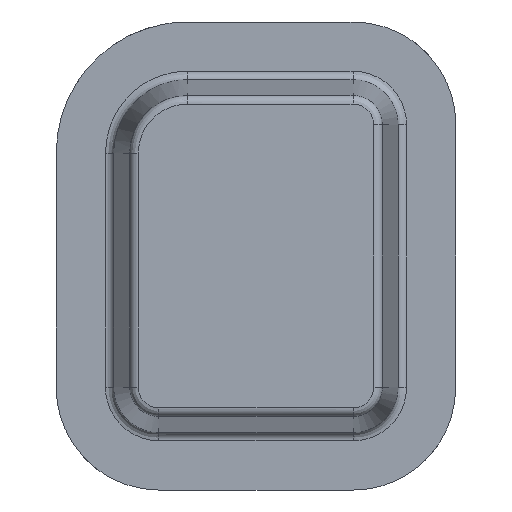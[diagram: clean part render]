
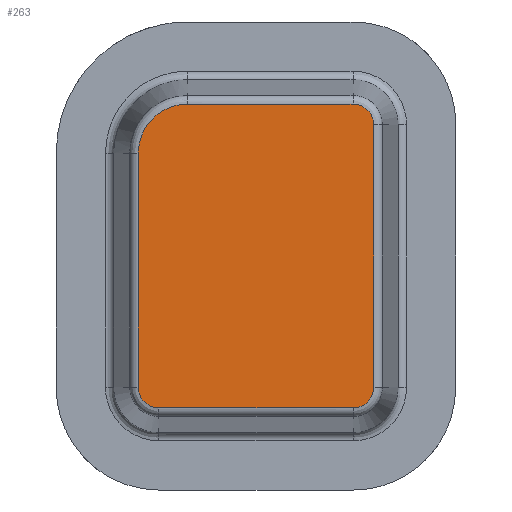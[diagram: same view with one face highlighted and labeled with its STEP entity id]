
A CAD part, front view. The second image highlights one B-rep face of the part: STEP entity #263.
In plain terms, the highlighted planar face has unit normal (0, -1, 0).
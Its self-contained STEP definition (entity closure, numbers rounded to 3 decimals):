
#144=CARTESIAN_POINT('Axis2P3D Location',(45.08,0.,54.92)) ;
#149=CARTESIAN_POINT('Line Origine',(2.749,0.,51.)) ;
#153=CARTESIAN_POINT('Vertex',(2.749,0.,92.)) ;
#155=CARTESIAN_POINT('Vertex',(2.749,0.,10.)) ;
#159=CARTESIAN_POINT('Control Point',(2.749,0.,10.)) ;
#160=CARTESIAN_POINT('Control Point',(2.749,0.,9.039)) ;
#161=CARTESIAN_POINT('Control Point',(2.908,0.,8.077)) ;
#162=CARTESIAN_POINT('Control Point',(3.227,0.,7.152)) ;
#163=CARTESIAN_POINT('Control Point',(4.157,0.,5.443)) ;
#164=CARTESIAN_POINT('Control Point',(5.589,0.,4.124)) ;
#165=CARTESIAN_POINT('Control Point',(6.408,0.,3.59)) ;
#166=CARTESIAN_POINT('Control Point',(7.599,0.,3.072)) ;
#167=CARTESIAN_POINT('Control Point',(8.86,0.,2.828)) ;
#168=CARTESIAN_POINT('Control Point',(9.179,0.,2.785)) ;
#169=CARTESIAN_POINT('Control Point',(9.535,0.,2.756)) ;
#170=CARTESIAN_POINT('Control Point',(9.891,0.,2.75)) ;
#171=CARTESIAN_POINT('Control Point',(9.928,0.,2.749)) ;
#172=CARTESIAN_POINT('Control Point',(9.964,0.,2.749)) ;
#173=CARTESIAN_POINT('Control Point',(10.,0.,2.749)) ;
#174=CARTESIAN_POINT('Vertex',(10.,0.,2.749)) ;
#177=CARTESIAN_POINT('Line Origine',(44.,0.,2.749)) ;
#181=CARTESIAN_POINT('Vertex',(78.,0.,2.749)) ;
#185=CARTESIAN_POINT('Control Point',(78.,0.,2.749)) ;
#186=CARTESIAN_POINT('Control Point',(78.961,0.,2.749)) ;
#187=CARTESIAN_POINT('Control Point',(79.923,0.,2.908)) ;
#188=CARTESIAN_POINT('Control Point',(80.848,0.,3.227)) ;
#189=CARTESIAN_POINT('Control Point',(82.557,0.,4.157)) ;
#190=CARTESIAN_POINT('Control Point',(83.876,0.,5.589)) ;
#191=CARTESIAN_POINT('Control Point',(84.41,0.,6.408)) ;
#192=CARTESIAN_POINT('Control Point',(84.928,0.,7.599)) ;
#193=CARTESIAN_POINT('Control Point',(85.172,0.,8.86)) ;
#194=CARTESIAN_POINT('Control Point',(85.215,0.,9.179)) ;
#195=CARTESIAN_POINT('Control Point',(85.244,0.,9.535)) ;
#196=CARTESIAN_POINT('Control Point',(85.25,0.,9.891)) ;
#197=CARTESIAN_POINT('Control Point',(85.251,0.,9.928)) ;
#198=CARTESIAN_POINT('Control Point',(85.251,0.,9.964)) ;
#199=CARTESIAN_POINT('Control Point',(85.251,0.,10.)) ;
#200=CARTESIAN_POINT('Vertex',(85.251,0.,10.)) ;
#203=CARTESIAN_POINT('Line Origine',(85.251,0.,56.)) ;
#207=CARTESIAN_POINT('Vertex',(85.251,0.,102.)) ;
#211=CARTESIAN_POINT('Control Point',(85.251,0.,102.)) ;
#212=CARTESIAN_POINT('Control Point',(85.251,0.,102.961)) ;
#213=CARTESIAN_POINT('Control Point',(85.092,0.,103.923)) ;
#214=CARTESIAN_POINT('Control Point',(84.773,0.,104.848)) ;
#215=CARTESIAN_POINT('Control Point',(83.843,0.,106.557)) ;
#216=CARTESIAN_POINT('Control Point',(82.411,0.,107.876)) ;
#217=CARTESIAN_POINT('Control Point',(81.592,0.,108.41)) ;
#218=CARTESIAN_POINT('Control Point',(80.401,0.,108.928)) ;
#219=CARTESIAN_POINT('Control Point',(79.14,0.,109.172)) ;
#220=CARTESIAN_POINT('Control Point',(78.821,0.,109.215)) ;
#221=CARTESIAN_POINT('Control Point',(78.465,0.,109.244)) ;
#222=CARTESIAN_POINT('Control Point',(78.109,0.,109.25)) ;
#223=CARTESIAN_POINT('Control Point',(78.072,0.,109.251)) ;
#224=CARTESIAN_POINT('Control Point',(78.036,0.,109.251)) ;
#225=CARTESIAN_POINT('Control Point',(78.,0.,109.251)) ;
#226=CARTESIAN_POINT('Vertex',(78.,0.,109.251)) ;
#229=CARTESIAN_POINT('Line Origine',(49.,0.,109.251)) ;
#233=CARTESIAN_POINT('Vertex',(20.,0.,109.251)) ;
#237=CARTESIAN_POINT('Control Point',(20.,0.,109.251)) ;
#238=CARTESIAN_POINT('Control Point',(18.077,0.,109.251)) ;
#239=CARTESIAN_POINT('Control Point',(16.154,0.,108.983)) ;
#240=CARTESIAN_POINT('Control Point',(14.282,0.,108.447)) ;
#241=CARTESIAN_POINT('Control Point',(10.736,0.,106.869)) ;
#242=CARTESIAN_POINT('Control Point',(7.757,0.,104.383)) ;
#243=CARTESIAN_POINT('Control Point',(6.451,0.,102.938)) ;
#244=CARTESIAN_POINT('Control Point',(4.493,0.,100.045)) ;
#245=CARTESIAN_POINT('Control Point',(3.313,0.,96.768)) ;
#246=CARTESIAN_POINT('Control Point',(2.954,0.,95.258)) ;
#247=CARTESIAN_POINT('Control Point',(2.762,0.,93.685)) ;
#248=CARTESIAN_POINT('Control Point',(2.749,0.,92.109)) ;
#249=CARTESIAN_POINT('Control Point',(2.749,0.,92.073)) ;
#250=CARTESIAN_POINT('Control Point',(2.749,0.,92.036)) ;
#251=CARTESIAN_POINT('Control Point',(2.749,0.,92.)) ;
#145=DIRECTION('Axis2P3D Direction',(0.,-1.,0.)) ;
#146=DIRECTION('Axis2P3D XDirection',(0.114,0.,0.993)) ;
#150=DIRECTION('Vector Direction',(0.,0.,1.)) ;
#178=DIRECTION('Vector Direction',(1.,0.,0.)) ;
#204=DIRECTION('Vector Direction',(0.,0.,1.)) ;
#230=DIRECTION('Vector Direction',(-1.,0.,0.)) ;
#147=AXIS2_PLACEMENT_3D('Plane Axis2P3D',#144,#145,#146) ;
#254=ORIENTED_EDGE('',*,*,#157,.T.) ;
#255=ORIENTED_EDGE('',*,*,#176,.T.) ;
#256=ORIENTED_EDGE('',*,*,#183,.T.) ;
#257=ORIENTED_EDGE('',*,*,#202,.T.) ;
#258=ORIENTED_EDGE('',*,*,#209,.T.) ;
#259=ORIENTED_EDGE('',*,*,#228,.T.) ;
#260=ORIENTED_EDGE('',*,*,#235,.T.) ;
#261=ORIENTED_EDGE('',*,*,#252,.T.) ;
#151=VECTOR('Line Direction',#150,1.) ;
#179=VECTOR('Line Direction',#178,1.) ;
#205=VECTOR('Line Direction',#204,1.) ;
#231=VECTOR('Line Direction',#230,1.) ;
#263=ADVANCED_FACE('base',(#262),#148,.T.) ;
#158=B_SPLINE_CURVE_WITH_KNOTS('',5,(#159,#160,#161,#162,#163,#164,#165,#166,#167,#168,#169,#170,#171,#172,#173),.UNSPECIFIED.,.F.,.U.,(6,3,3,3,6),(27.634,37.706,47.784,51.143,51.521),.UNSPECIFIED.) ;
#184=B_SPLINE_CURVE_WITH_KNOTS('',5,(#185,#186,#187,#188,#189,#190,#191,#192,#193,#194,#195,#196,#197,#198,#199),.UNSPECIFIED.,.F.,.U.,(6,3,3,3,6),(27.634,37.707,47.784,51.143,51.522),.UNSPECIFIED.) ;
#210=B_SPLINE_CURVE_WITH_KNOTS('',5,(#211,#212,#213,#214,#215,#216,#217,#218,#219,#220,#221,#222,#223,#224,#225),.UNSPECIFIED.,.F.,.U.,(6,3,3,3,6),(27.634,37.706,47.784,51.142,51.521),.UNSPECIFIED.) ;
#236=B_SPLINE_CURVE_WITH_KNOTS('',5,(#237,#238,#239,#240,#241,#242,#243,#244,#245,#246,#247,#248,#249,#250,#251),.UNSPECIFIED.,.F.,.U.,(6,3,3,3,6),(39.682,55.798,71.933,84.833,85.138),.UNSPECIFIED.) ;
#157=EDGE_CURVE('',#154,#156,#152,.F.) ;
#176=EDGE_CURVE('',#156,#175,#158,.T.) ;
#183=EDGE_CURVE('',#175,#182,#180,.T.) ;
#202=EDGE_CURVE('',#182,#201,#184,.T.) ;
#209=EDGE_CURVE('',#201,#208,#206,.T.) ;
#228=EDGE_CURVE('',#208,#227,#210,.T.) ;
#235=EDGE_CURVE('',#227,#234,#232,.T.) ;
#252=EDGE_CURVE('',#234,#154,#236,.T.) ;
#253=EDGE_LOOP('',(#254,#255,#256,#257,#258,#259,#260,#261)) ;
#262=FACE_OUTER_BOUND('',#253,.T.) ;
#152=LINE('Line',#149,#151) ;
#180=LINE('Line',#177,#179) ;
#206=LINE('Line',#203,#205) ;
#232=LINE('Line',#229,#231) ;
#148=PLANE('',#147) ;
#154=VERTEX_POINT('',#153) ;
#156=VERTEX_POINT('',#155) ;
#175=VERTEX_POINT('',#174) ;
#182=VERTEX_POINT('',#181) ;
#201=VERTEX_POINT('',#200) ;
#208=VERTEX_POINT('',#207) ;
#227=VERTEX_POINT('',#226) ;
#234=VERTEX_POINT('',#233) ;
